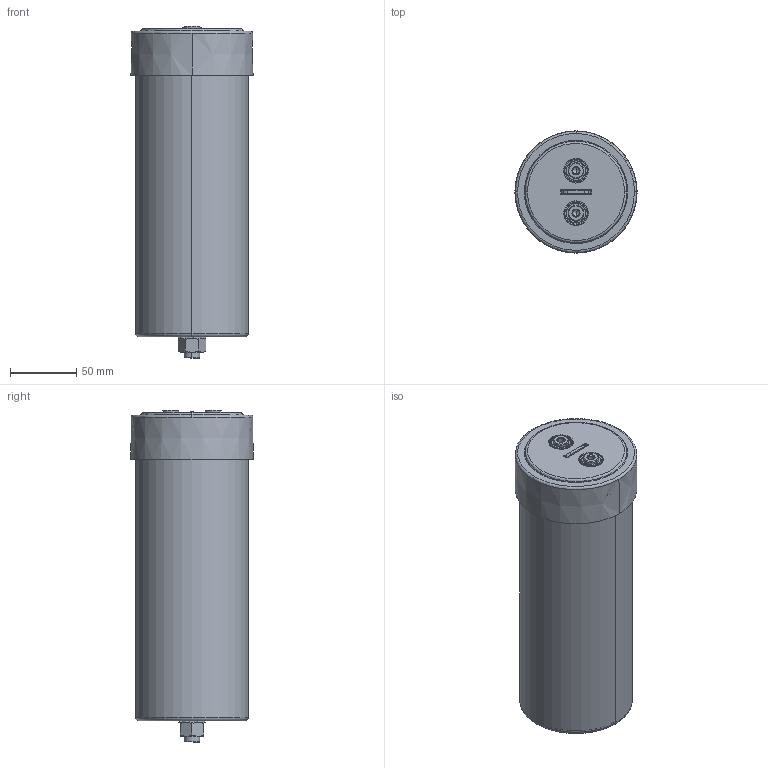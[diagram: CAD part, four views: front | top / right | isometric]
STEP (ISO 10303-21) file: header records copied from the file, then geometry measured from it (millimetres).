
FILE_DESCRIPTION (( 'STEP AP203' ), '1' );
FILE_NAME ('B25680Cx_85x232_234.STEP', '2021-09-13T04:06:10', ( '' ), ( '' ), 'SwSTEP 2.0', 'SolidWorks 2017', '' );
FILE_SCHEMA (( 'CONFIG_CONTROL_DESIGN' ));
Length unit declared in the file: millimetre
Products named in the file (1): B25680Cx_85x232_234
Bounding box: 92.08 x 92.08 x 250 mm (x, y, z)
Volume: 99853.4 mm3; surface area: 195749.5 mm2
Topology: 1 solids, 9 shells, 512 faces, 1230 edges, 772 vertices
Faces by surface type: plane 189, cylinder 168, bspline 64, cone 61, torus 30
Entity records: 19256 total; most frequent: CARTESIAN_POINT 7249, DIRECTION 2594, ORIENTED_EDGE 2452, EDGE_CURVE 1226, AXIS2_PLACEMENT_3D 1041, VERTEX_POINT 772, CIRCLE 592, EDGE_LOOP 572
